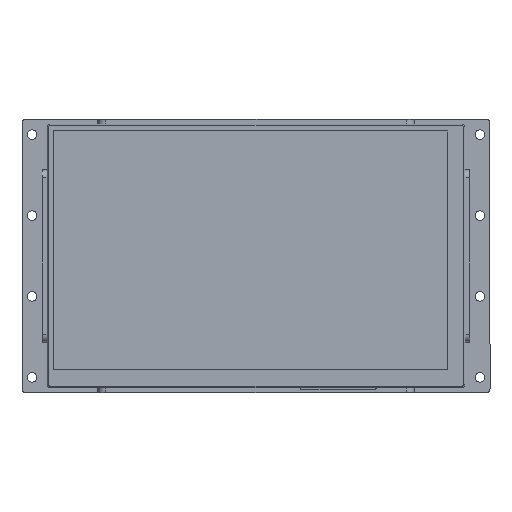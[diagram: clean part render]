
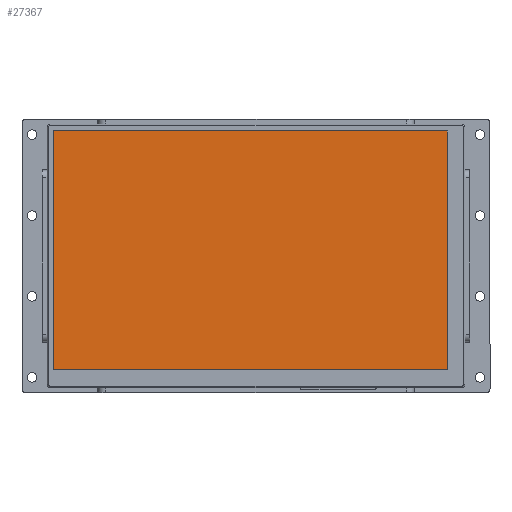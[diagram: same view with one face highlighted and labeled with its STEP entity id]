
A CAD part, top view. The second image highlights one B-rep face of the part: STEP entity #27367.
In plain terms, the highlighted planar face has unit normal (0, 0, 1).
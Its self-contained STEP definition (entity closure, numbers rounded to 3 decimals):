
#566 = VECTOR ( 'NONE', #5778, 1000. ) ;
#1474 = DIRECTION ( 'NONE',  ( 0., 0., 1. ) ) ;
#1996 = CIRCLE ( 'NONE', #25098, 0.1 ) ;
#3030 = AXIS2_PLACEMENT_3D ( 'NONE', #12882, #1474, #18986 ) ;
#3457 = ORIENTED_EDGE ( 'NONE', *, *, #17631, .T. ) ;
#4284 = VERTEX_POINT ( 'NONE', #44509 ) ;
#4520 = EDGE_CURVE ( 'NONE', #19635, #30544, #7346, .T. ) ;
#5778 = DIRECTION ( 'NONE',  ( 1., 0., 0. ) ) ;
#6056 = CARTESIAN_POINT ( 'NONE',  ( -80.1, 49.4, 0. ) ) ;
#6383 = AXIS2_PLACEMENT_3D ( 'NONE', #33785, #23053, #22828 ) ;
#6471 = CARTESIAN_POINT ( 'NONE',  ( 75.6, -44.9, 0. ) ) ;
#6698 = LINE ( 'NONE', #24204, #35769 ) ;
#7346 = LINE ( 'NONE', #35595, #15212 ) ;
#7731 = VERTEX_POINT ( 'NONE', #31451 ) ;
#8622 = EDGE_LOOP ( 'NONE', ( #44286, #44525, #3457, #15298, #10467, #32347, #40268, #30961 ) ) ;
#9646 = CARTESIAN_POINT ( 'NONE',  ( 75.6, 49.4, 0. ) ) ;
#10256 = CARTESIAN_POINT ( 'NONE',  ( -80., 49.4, 0. ) ) ;
#10397 = CARTESIAN_POINT ( 'NONE',  ( -80., 49.5, 0. ) ) ;
#10467 = ORIENTED_EDGE ( 'NONE', *, *, #11123, .T. ) ;
#10596 = DIRECTION ( 'NONE',  ( 0., -1., 0. ) ) ;
#11123 = EDGE_CURVE ( 'NONE', #34448, #37511, #31331, .T. ) ;
#12882 = CARTESIAN_POINT ( 'NONE',  ( 75.5, -44.9, 0. ) ) ;
#13168 = CARTESIAN_POINT ( 'NONE',  ( -80.1, -44.9, 0. ) ) ;
#13911 = DIRECTION ( 'NONE',  ( 0., -1., 0. ) ) ;
#14160 = VERTEX_POINT ( 'NONE', #10397 ) ;
#15212 = VECTOR ( 'NONE', #10596, 1000. ) ;
#15298 = ORIENTED_EDGE ( 'NONE', *, *, #20025, .T. ) ;
#17121 = CARTESIAN_POINT ( 'NONE',  ( 75.5, -45., 0. ) ) ;
#17631 = EDGE_CURVE ( 'NONE', #30544, #36207, #23517, .T. ) ;
#17707 = FACE_OUTER_BOUND ( 'NONE', #8622, .T. ) ;
#18986 = DIRECTION ( 'NONE',  ( 0., -1., 0. ) ) ;
#19173 = CARTESIAN_POINT ( 'NONE',  ( 75.5, 49.4, 0. ) ) ;
#19635 = VERTEX_POINT ( 'NONE', #6056 ) ;
#20025 = EDGE_CURVE ( 'NONE', #36207, #34448, #44780, .T. ) ;
#20929 = EDGE_CURVE ( 'NONE', #7731, #14160, #6698, .T. ) ;
#20933 = DIRECTION ( 'NONE',  ( -1., 0., 0. ) ) ;
#22373 = EDGE_CURVE ( 'NONE', #37511, #4284, #41647, .T. ) ;
#22828 = DIRECTION ( 'NONE',  ( 0., 1., 0. ) ) ;
#23053 = DIRECTION ( 'NONE',  ( 0., 0., 1. ) ) ;
#23517 = CIRCLE ( 'NONE', #6383, 0.1 ) ;
#24204 = CARTESIAN_POINT ( 'NONE',  ( -80., 49.5, 0. ) ) ;
#25098 = AXIS2_PLACEMENT_3D ( 'NONE', #19173, #27060, #41098 ) ;
#27000 = CARTESIAN_POINT ( 'NONE',  ( 75.5, -45., 0. ) ) ;
#27060 = DIRECTION ( 'NONE',  ( 0., 0., 1. ) ) ;
#27367 = ADVANCED_FACE ( 'NONE', ( #17707 ), #42245, .T. ) ;
#27801 = EDGE_CURVE ( 'NONE', #14160, #19635, #35943, .T. ) ;
#30544 = VERTEX_POINT ( 'NONE', #13168 ) ;
#30961 = ORIENTED_EDGE ( 'NONE', *, *, #20929, .T. ) ;
#31331 = CIRCLE ( 'NONE', #3030, 0.1 ) ;
#31451 = CARTESIAN_POINT ( 'NONE',  ( 75.5, 49.5, 0. ) ) ;
#31989 = VECTOR ( 'NONE', #34189, 1000. ) ;
#32347 = ORIENTED_EDGE ( 'NONE', *, *, #22373, .T. ) ;
#33785 = CARTESIAN_POINT ( 'NONE',  ( -80., -44.9, 0. ) ) ;
#34189 = DIRECTION ( 'NONE',  ( 0., 1., 0. ) ) ;
#34448 = VERTEX_POINT ( 'NONE', #17121 ) ;
#35595 = CARTESIAN_POINT ( 'NONE',  ( -80.1, -44.9, 0. ) ) ;
#35769 = VECTOR ( 'NONE', #20933, 1000. ) ;
#35943 = CIRCLE ( 'NONE', #37449, 0.1 ) ;
#36207 = VERTEX_POINT ( 'NONE', #43396 ) ;
#37449 = AXIS2_PLACEMENT_3D ( 'NONE', #37564, #45650, #13911 ) ;
#37511 = VERTEX_POINT ( 'NONE', #6471 ) ;
#37564 = CARTESIAN_POINT ( 'NONE',  ( -80., 49.4, 0. ) ) ;
#38175 = AXIS2_PLACEMENT_3D ( 'NONE', #10256, #42693, #39205 ) ;
#39205 = DIRECTION ( 'NONE',  ( 0., -1., 0. ) ) ;
#40268 = ORIENTED_EDGE ( 'NONE', *, *, #44735, .T. ) ;
#41098 = DIRECTION ( 'NONE',  ( 0., -1., 0. ) ) ;
#41647 = LINE ( 'NONE', #9646, #31989 ) ;
#42245 = PLANE ( 'NONE',  #38175 ) ;
#42693 = DIRECTION ( 'NONE',  ( 0., 0., 1. ) ) ;
#43396 = CARTESIAN_POINT ( 'NONE',  ( -80., -45., 0. ) ) ;
#44286 = ORIENTED_EDGE ( 'NONE', *, *, #27801, .T. ) ;
#44509 = CARTESIAN_POINT ( 'NONE',  ( 75.6, 49.4, 0. ) ) ;
#44525 = ORIENTED_EDGE ( 'NONE', *, *, #4520, .T. ) ;
#44735 = EDGE_CURVE ( 'NONE', #4284, #7731, #1996, .T. ) ;
#44780 = LINE ( 'NONE', #27000, #566 ) ;
#45650 = DIRECTION ( 'NONE',  ( 0., 0., 1. ) ) ;
